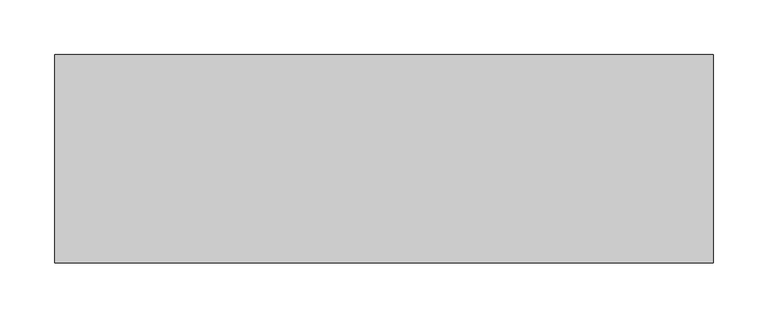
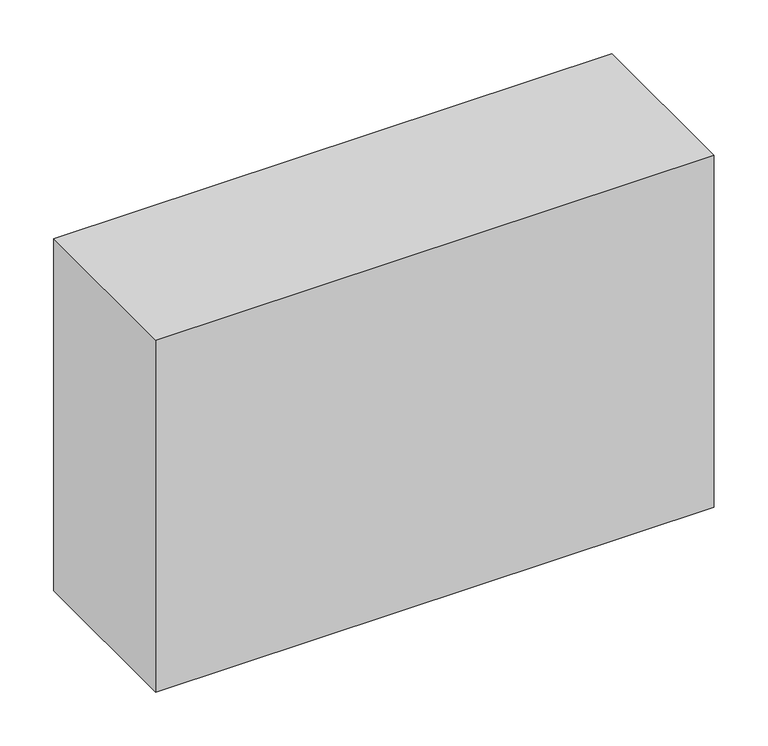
"""IFC4 building model written with IfcOpenShell, lengths in millimetres: proxy geometry, Módulo de Vedação de Concreto Celular - Celucon : MVCC 19x40x60cm (L x A x C)."""

from ifc_helpers import new_model, si_unit, origin, origin_with_axes, place, context, project, spatial, polyline, outline, extrude, source, transform, mapped, element, save


def generic_models_ac6e04da(model_context):
    return source(origin(), model_context, "Body", "SweptSolid", [
        extrude(outline(polyline([(300.0, 95.0), (300.0, -95.0), (-300.0, -95.0), (-300.0, 95.0), (300.0, 95.0)])), origin_with_axes(), (0.0, 0.0, 1.0), 400.0),
    ])


if __name__ == "__main__":
    model = new_model("IFC4")
    model_context = context("Model", 3, world=origin())
    ifc_project = project(units=[si_unit("LENGTHUNIT", "METRE", prefix="MILLI")], contexts=[model_context])
    site = spatial("IfcSite", under=ifc_project)
    building = spatial("IfcBuilding", under=site)
    placement = place(None, origin())
    generic_models_shape = generic_models_ac6e04da(model_context)
    element("IfcBuildingElementProxy", 1, Name="Módulo de Vedação de Concreto Celular - Celucon : MVCC 19x40x60cm (L x A x C)", ObjectType="Módulo de Vedação de Concreto Celular - Celucon : MVCC 19x40x60cm (L x A x C)", at=placement, inside=building, context=model_context, shape_type="MappedRepresentation", body=[
        mapped(generic_models_shape, transform((0.0, 0.0, 0.0), x_axis=(1.0, 0.0, 0.0), y_axis=(0.0, 1.0, 0.0), z_axis=(0.0, 0.0, 1.0))),
    ])
    save(model, "model.ifc")
